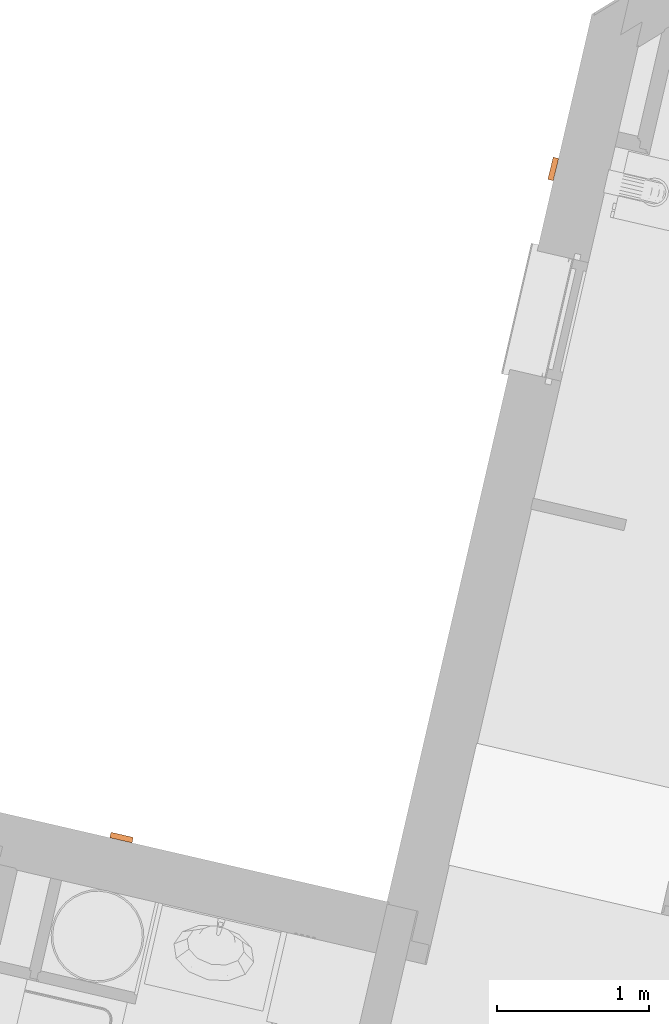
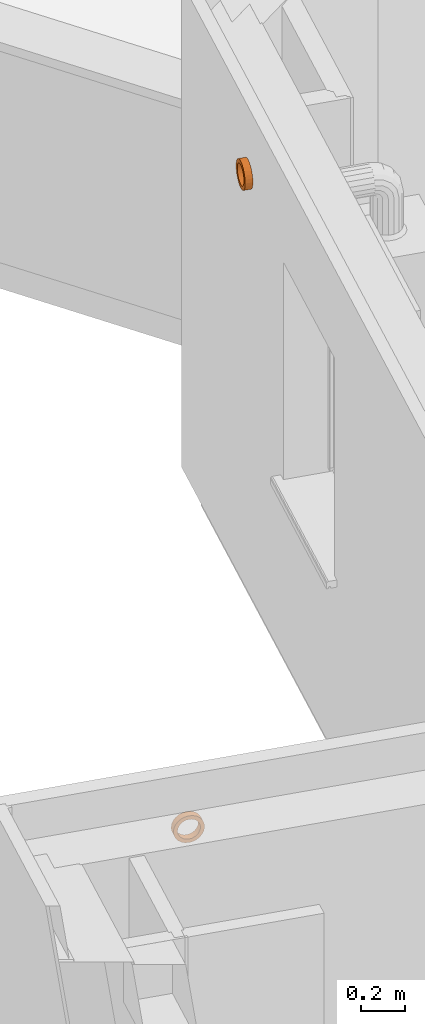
# One storey, part 88 of 91: 2 proxies.
"""IFC2X3 building model written with IfcOpenShell, lengths in metres."""

from ifc_helpers import new_model, entity, si_unit, converted_unit, derived_unit, money_unit, direction, frame, origin_with_axes, place, context, subcontext, project, spatial, faceted_brep, source, transform, mapped, type_object, element, save


model = new_model("IFC2X3")

# Units and contexts
model_context = context("Model", 3, precision=1e-05, world=origin_with_axes(), true_north=direction((0.0, 1.0)))
body_context = subcontext(model_context, "Body", "Model", "MODEL_VIEW")
ifc_project = project(units=[si_unit("LENGTHUNIT", "METRE"), si_unit("AREAUNIT", "SQUARE_METRE"), si_unit("VOLUMEUNIT", "CUBIC_METRE"), converted_unit("PLANEANGLEUNIT", "DEGREE", entity("IfcPlaneAngleMeasure", 0.0174532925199), si_unit("PLANEANGLEUNIT", "RADIAN"), dimensions=[0, 0, 0, 0, 0, 0, 0]), si_unit("SOLIDANGLEUNIT", "STERADIAN"), money_unit("EUR"), converted_unit("TIMEUNIT", "Year", entity("IfcTimeMeasure", 31556926.0), si_unit("TIMEUNIT", "SECOND"), dimensions=[0, 0, 1, 0, 0, 0, 0]), si_unit("MASSUNIT", "GRAM", prefix="KILO"), si_unit("THERMODYNAMICTEMPERATUREUNIT", "DEGREE_CELSIUS"), si_unit("LUMINOUSINTENSITYUNIT", "LUMEN"), si_unit("ENERGYUNIT", "JOULE", prefix="MEGA"), derived_unit("THERMALCONDUCTANCEUNIT", [(si_unit("POWERUNIT", "WATT"), 1), (si_unit("LENGTHUNIT", "METRE"), -1), (si_unit("THERMODYNAMICTEMPERATUREUNIT", "KELVIN"), -1)]), derived_unit("SPECIFICHEATCAPACITYUNIT", [(si_unit("ENERGYUNIT", "JOULE"), 1), (si_unit("MASSUNIT", "GRAM", prefix="KILO"), -1), (si_unit("THERMODYNAMICTEMPERATUREUNIT", "KELVIN"), -1)]), derived_unit("MASSDENSITYUNIT", [(si_unit("MASSUNIT", "GRAM", prefix="KILO"), 1), (si_unit("VOLUMEUNIT", "CUBIC_METRE"), -1)])], contexts=[model_context])

# Site, building, storey
site_placement = place(None, origin_with_axes())
site = spatial("IfcSite", under=ifc_project, at=site_placement, Name="Site", CompositionType="ELEMENT")
building_placement = place(site_placement, origin_with_axes())
building = spatial("IfcBuilding", under=site, at=building_placement, Name="Bâtiment", CompositionType="ELEMENT")
storey_placement = place(building_placement, frame((0.0, 0.0, 5.44), z_axis=(0.0, 0.0, 1.0), x_axis=(1.0, 0.0, 0.0)))
storey = spatial("IfcBuildingStorey", under=building, at=storey_placement, Name="R+2", CompositionType="ELEMENT", Elevation=5.44)

# Proxies
building_element_proxy_type = type_object("IfcBuildingElementProxyType", Name="Tube évidé 23", PredefinedType="NOTDEFINED")
shared_shape = source(origin_with_axes(), body_context, "Body", "Brep", [
    faceted_brep([(0.0, 0.0, -0.075), (0.0, 0.0194114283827, -0.0724444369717), (0.0, 0.0375, -0.0649519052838), (0.0, 0.053033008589, -0.053033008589), (0.0, 0.0649519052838, -0.0375), (0.0, 0.0724444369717, -0.0194114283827), (0.0, 0.075, 0.0), (0.0, 0.0724444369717, 0.0194114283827), (0.0, 0.0649519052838, 0.0375), (0.0, 0.053033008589, 0.053033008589), (0.0, 0.0375, 0.0649519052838), (0.0, 0.0194114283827, 0.0724444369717), (0.0, 0.0, 0.075), (0.0, -0.0194114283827, 0.0724444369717), (0.0, -0.0375, 0.0649519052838), (0.0, -0.053033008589, 0.053033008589), (0.0, -0.0649519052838, 0.0375), (0.0, -0.0724444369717, 0.0194114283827), (0.0, -0.075, 0.0), (0.0, -0.0724444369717, -0.0194114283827), (0.0, -0.0649519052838, -0.0375), (0.0, -0.053033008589, -0.053033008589), (0.0, -0.0375, -0.0649519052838), (0.0, -0.0194114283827, -0.0724444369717), (0.0, -0.0275, -0.0476313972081), (0.0, -0.0388908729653, -0.0388908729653), (0.0, -0.0476313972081, -0.0275), (0.0, -0.0531259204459, -0.0142350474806), (0.0, -0.055, 0.0), (0.0, -0.0531259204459, 0.0142350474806), (0.0, -0.0476313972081, 0.0275), (0.0, -0.0388908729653, 0.0388908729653), (0.0, -0.0275, 0.0476313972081), (0.0, -0.0142350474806, 0.0531259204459), (0.0, 0.0, 0.055), (0.0, 0.0142350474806, 0.0531259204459), (0.0, 0.0275, 0.0476313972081), (0.0, 0.0388908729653, 0.0388908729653), (0.0, 0.0476313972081, 0.0275), (0.0, 0.0531259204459, 0.0142350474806), (0.0, 0.055, 0.0), (0.0, 0.0531259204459, -0.0142350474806), (0.0, 0.0476313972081, -0.0275), (0.0, 0.0388908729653, -0.0388908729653), (0.0, 0.0275, -0.0476313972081), (0.0, 0.0142350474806, -0.0531259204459), (0.0, 0.0, -0.055), (0.0, -0.0142350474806, -0.0531259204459), (-0.0368596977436, 0.0, -0.075), (-0.0368596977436, 0.0194114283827, -0.0724444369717), (-0.0368596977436, 0.0375, -0.0649519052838), (-0.0368596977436, 0.053033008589, -0.053033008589), (-0.0368596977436, 0.0649519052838, -0.0375), (-0.0368596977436, 0.0724444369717, -0.0194114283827), (-0.0368596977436, 0.075, 0.0), (-0.0368596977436, 0.0724444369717, 0.0194114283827), (-0.0368596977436, 0.0649519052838, 0.0375), (-0.0368596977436, 0.053033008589, 0.053033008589), (-0.0368596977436, 0.0375, 0.0649519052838), (-0.0368596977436, 0.0194114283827, 0.0724444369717), (-0.0368596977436, 0.0, 0.075), (-0.0368596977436, -0.0194114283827, 0.0724444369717), (-0.0368596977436, -0.0375, 0.0649519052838), (-0.0368596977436, -0.053033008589, 0.053033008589), (-0.0368596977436, -0.0649519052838, 0.0375), (-0.0368596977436, -0.0724444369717, 0.0194114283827), (-0.0368596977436, -0.075, 0.0), (-0.0368596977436, -0.0724444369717, -0.0194114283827), (-0.0368596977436, -0.0649519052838, -0.0375), (-0.0368596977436, -0.053033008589, -0.053033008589), (-0.0368596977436, -0.0375, -0.0649519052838), (-0.0368596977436, -0.0194114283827, -0.0724444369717), (-0.0368596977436, -0.0388908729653, -0.0388908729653), (-0.0368596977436, -0.0275, -0.0476313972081), (-0.0368596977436, -0.0476313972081, -0.0275), (-0.0368596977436, -0.0531259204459, -0.0142350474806), (-0.0368596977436, -0.055, 0.0), (-0.0368596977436, -0.0531259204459, 0.0142350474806), (-0.0368596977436, -0.0476313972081, 0.0275), (-0.0368596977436, -0.0388908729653, 0.0388908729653), (-0.0368596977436, -0.0275, 0.0476313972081), (-0.0368596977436, -0.0142350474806, 0.0531259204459), (-0.0368596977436, 0.0, 0.055), (-0.0368596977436, 0.0142350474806, 0.0531259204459), (-0.0368596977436, 0.0275, 0.0476313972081), (-0.0368596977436, 0.0388908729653, 0.0388908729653), (-0.0368596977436, 0.0476313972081, 0.0275), (-0.0368596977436, 0.0531259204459, 0.0142350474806), (-0.0368596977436, 0.055, 0.0), (-0.0368596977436, 0.0531259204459, -0.0142350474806), (-0.0368596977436, 0.0476313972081, -0.0275), (-0.0368596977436, 0.0388908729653, -0.0388908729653), (-0.0368596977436, 0.0275, -0.0476313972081), (-0.0368596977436, 0.0142350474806, -0.0531259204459), (-0.0368596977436, 0.0, -0.055), (-0.0368596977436, -0.0142350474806, -0.0531259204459)], [[[0, 1, 2, 3, 4, 5, 6, 7, 8, 9, 10, 11, 12, 13, 14, 15, 16, 17, 18, 19, 20, 21, 22, 23], [24, 25, 26, 27, 28, 29, 30, 31, 32, 33, 34, 35, 36, 37, 38, 39, 40, 41, 42, 43, 44, 45, 46, 47]], [[48, 49, 1, 0]], [[49, 50, 2, 1]], [[50, 51, 3, 2]], [[51, 52, 4, 3]], [[52, 53, 5, 4]], [[53, 54, 6, 5]], [[54, 55, 7, 6]], [[55, 56, 8, 7]], [[56, 57, 9, 8]], [[57, 58, 10, 9]], [[58, 59, 11, 10]], [[59, 60, 12, 11]], [[60, 61, 13, 12]], [[61, 62, 14, 13]], [[62, 63, 15, 14]], [[63, 64, 16, 15]], [[64, 65, 17, 16]], [[65, 66, 18, 17]], [[66, 67, 19, 18]], [[67, 68, 20, 19]], [[68, 69, 21, 20]], [[69, 70, 22, 21]], [[70, 71, 23, 22]], [[71, 48, 0, 23]], [[72, 25, 24, 73]], [[74, 26, 25, 72]], [[75, 27, 26, 74]], [[76, 28, 27, 75]], [[77, 29, 28, 76]], [[78, 30, 29, 77]], [[79, 31, 30, 78]], [[80, 32, 31, 79]], [[81, 33, 32, 80]], [[82, 34, 33, 81]], [[83, 35, 34, 82]], [[84, 36, 35, 83]], [[85, 37, 36, 84]], [[86, 38, 37, 85]], [[87, 39, 38, 86]], [[88, 40, 39, 87]], [[89, 41, 40, 88]], [[90, 42, 41, 89]], [[91, 43, 42, 90]], [[92, 44, 43, 91]], [[93, 45, 44, 92]], [[94, 46, 45, 93]], [[95, 47, 46, 94]], [[73, 24, 47, 95]], [[70, 69, 68, 67, 66, 65, 64, 63, 62, 61, 60, 59, 58, 57, 56, 55, 54, 53, 52, 51, 50, 49, 48, 71], [92, 91, 90, 89, 88, 87, 86, 85, 84, 83, 82, 81, 80, 79, 78, 77, 76, 75, 74, 72, 73, 95, 94, 93]]]),
])
for number, where, z_axis, x_axis, name in (
    (1, (-7.08643347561, 16.6191634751, 2.35), (0.0, 0.0, 1.0), (0.97151231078, -0.236989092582, 0.0), "MOB-003"),
    (2, (-9.94778968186, 12.2079923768, 2.35), (0.0, 0.0, 1.0), (-0.224876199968, -0.974387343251, 0.0), "MOB-003"),
):
    element("IfcBuildingElementProxy", number, at=place(storey_placement, frame(where, z_axis=z_axis, x_axis=x_axis)), inside=storey, type_object=building_element_proxy_type, Name=name, context=body_context, shape_type="MappedRepresentation", body=[
        mapped(shared_shape, transform((0.0, 0.0, 0.0))),
    ])

save(model, "model.ifc")
